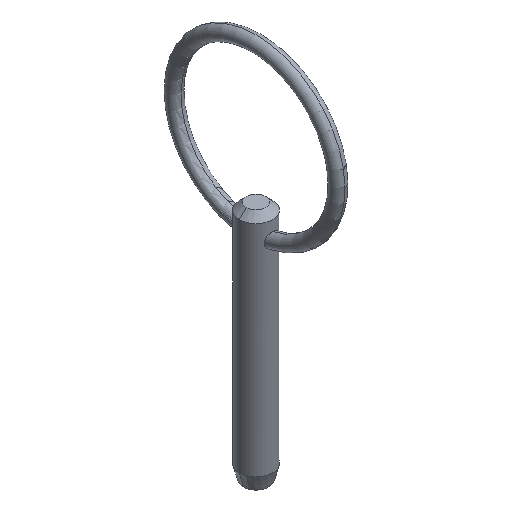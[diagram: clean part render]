
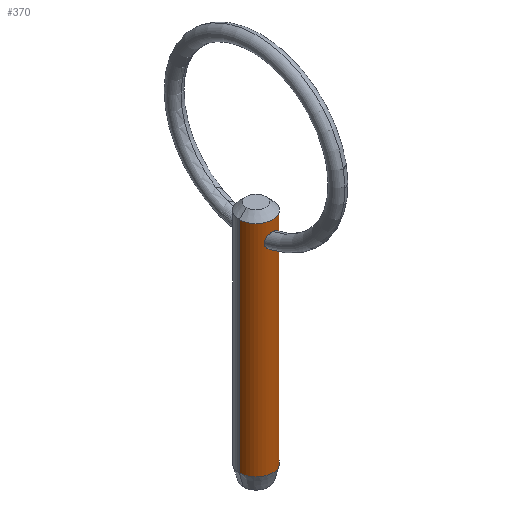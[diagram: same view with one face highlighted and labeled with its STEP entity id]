
A CAD part, isometric view. The second image highlights one B-rep face of the part: STEP entity #370.
In plain terms, the highlighted cylindrical face has radius 2.38 mm (diameter 4.76 mm), a partial arc.
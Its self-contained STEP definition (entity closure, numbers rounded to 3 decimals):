
#13 = CARTESIAN_POINT ( 'NONE',  ( 0., 0., -3.08 ) ) ;
#16 = DIRECTION ( 'NONE',  ( 0., 0., -1. ) ) ;
#19 = CARTESIAN_POINT ( 'NONE',  ( 2.38, 0., 24.5 ) ) ;
#21 = CARTESIAN_POINT ( 'NONE',  ( 0.615, -2.301, 26.544 ) ) ;
#24 = CARTESIAN_POINT ( 'NONE',  ( 0.966, -2.176, 25.997 ) ) ;
#27 = B_SPLINE_CURVE_WITH_KNOTS ( 'NONE', 3,
 ( #411, #207, #341, #275, #404, #239, #56, #128, #98, #442, #174, #199, #375, #236, #407, #90 ),
 .UNSPECIFIED., .F., .F.,
 ( 4, 2, 2, 2, 2, 2, 2, 4 ),
 ( 0.006, 0.006, 0.007, 0.007, 0.007, 0.008, 0.009, 0.009 ),
 .UNSPECIFIED. ) ;
#56 = CARTESIAN_POINT ( 'NONE',  ( -0.885, -2.21, 25.217 ) ) ;
#59 = CARTESIAN_POINT ( 'NONE',  ( -2.38, 0., -3.08 ) ) ;
#63 = DIRECTION ( 'NONE',  ( 1., 0., 0. ) ) ;
#68 = DIRECTION ( 'NONE',  ( -1., 0., 0. ) ) ;
#88 = LINE ( 'NONE', #374, #110 ) ;
#90 = CARTESIAN_POINT ( 'NONE',  ( 0., -2.38, 26.768 ) ) ;
#92 = CARTESIAN_POINT ( 'NONE',  ( 0., -2.38, 26.768 ) ) ;
#98 = CARTESIAN_POINT ( 'NONE',  ( -1.004, -2.158, 25.599 ) ) ;
#101 = CARTESIAN_POINT ( 'NONE',  ( 0.996, -2.162, 25.864 ) ) ;
#102 = B_SPLINE_CURVE_WITH_KNOTS ( 'NONE', 3,
 ( #92, #309, #315, #352, #21, #175, #384, #24, #101, #138, #177, #456, #417, #420, #212, #459, #246, #209 ),
 .UNSPECIFIED., .F., .F.,
 ( 4, 2, 2, 2, 2, 2, 2, 2, 4 ),
 ( 0.003, 0.003, 0.003, 0.004, 0.004, 0.005, 0.005, 0.005, 0.006 ),
 .UNSPECIFIED. ) ;
#106 = EDGE_CURVE ( 'NONE', #151, #235, #258, .T. ) ;
#108 = CARTESIAN_POINT ( 'NONE',  ( 2.38, 0., 28.24 ) ) ;
#110 = VECTOR ( 'NONE', #377, 1000. ) ;
#112 = ORIENTED_EDGE ( 'NONE', *, *, #106, .T. ) ;
#128 = CARTESIAN_POINT ( 'NONE',  ( -0.982, -2.169, 25.465 ) ) ;
#132 = EDGE_CURVE ( 'NONE', #308, #151, #88, .T. ) ;
#138 = CARTESIAN_POINT ( 'NONE',  ( 1.003, -2.158, 25.599 ) ) ;
#151 = VERTEX_POINT ( 'NONE', #59 ) ;
#160 = VERTEX_POINT ( 'NONE', #169 ) ;
#164 = AXIS2_PLACEMENT_3D ( 'NONE', #414, #348, #63 ) ;
#169 = CARTESIAN_POINT ( 'NONE',  ( 0., -2.38, 24.725 ) ) ;
#174 = CARTESIAN_POINT ( 'NONE',  ( -0.88, -2.219, 26.26 ) ) ;
#175 = CARTESIAN_POINT ( 'NONE',  ( 0.793, -2.246, 26.352 ) ) ;
#177 = CARTESIAN_POINT ( 'NONE',  ( 0.981, -2.169, 25.464 ) ) ;
#183 = CARTESIAN_POINT ( 'NONE',  ( 0., -2.38, 26.768 ) ) ;
#188 = EDGE_LOOP ( 'NONE', ( #433, #314 ) ) ;
#190 = EDGE_CURVE ( 'NONE', #399, #160, #102, .T. ) ;
#199 = CARTESIAN_POINT ( 'NONE',  ( -0.613, -2.302, 26.546 ) ) ;
#207 = CARTESIAN_POINT ( 'NONE',  ( -0.133, -2.38, 24.725 ) ) ;
#209 = CARTESIAN_POINT ( 'NONE',  ( 0., -2.38, 24.725 ) ) ;
#211 = EDGE_CURVE ( 'NONE', #160, #399, #27, .T. ) ;
#212 = CARTESIAN_POINT ( 'NONE',  ( 0.513, -2.327, 24.848 ) ) ;
#224 = EDGE_CURVE ( 'NONE', #335, #235, #338, .T. ) ;
#229 = ORIENTED_EDGE ( 'NONE', *, *, #132, .T. ) ;
#235 = VERTEX_POINT ( 'NONE', #310 ) ;
#236 = CARTESIAN_POINT ( 'NONE',  ( -0.267, -2.368, 26.737 ) ) ;
#239 = CARTESIAN_POINT ( 'NONE',  ( -0.811, -2.24, 25.106 ) ) ;
#241 = DIRECTION ( 'NONE',  ( -1., 0., 0. ) ) ;
#246 = CARTESIAN_POINT ( 'NONE',  ( 0.133, -2.38, 24.725 ) ) ;
#258 = CIRCLE ( 'NONE', #357, 2.38 ) ;
#273 = DIRECTION ( 'NONE',  ( 0., 0., 1. ) ) ;
#275 = CARTESIAN_POINT ( 'NONE',  ( -0.514, -2.327, 24.849 ) ) ;
#281 = AXIS2_PLACEMENT_3D ( 'NONE', #282, #353, #68 ) ;
#282 = CARTESIAN_POINT ( 'NONE',  ( 0., 0., 24.5 ) ) ;
#291 = CIRCLE ( 'NONE', #164, 2.38 ) ;
#308 = VERTEX_POINT ( 'NONE', #379 ) ;
#309 = CARTESIAN_POINT ( 'NONE',  ( 0.134, -2.38, 26.768 ) ) ;
#310 = CARTESIAN_POINT ( 'NONE',  ( 2.38, 0., -3.08 ) ) ;
#314 = ORIENTED_EDGE ( 'NONE', *, *, #211, .T. ) ;
#315 = CARTESIAN_POINT ( 'NONE',  ( 0.268, -2.368, 26.737 ) ) ;
#317 = ORIENTED_EDGE ( 'NONE', *, *, #325, .T. ) ;
#325 = EDGE_CURVE ( 'NONE', #335, #308, #291, .T. ) ;
#335 = VERTEX_POINT ( 'NONE', #108 ) ;
#338 = LINE ( 'NONE', #19, #362 ) ;
#341 = CARTESIAN_POINT ( 'NONE',  ( -0.268, -2.368, 24.751 ) ) ;
#348 = DIRECTION ( 'NONE',  ( 0., 0., -1. ) ) ;
#352 = CARTESIAN_POINT ( 'NONE',  ( 0.508, -2.328, 26.624 ) ) ;
#353 = DIRECTION ( 'NONE',  ( 0., 0., -1. ) ) ;
#357 = AXIS2_PLACEMENT_3D ( 'NONE', #13, #273, #241 ) ;
#362 = VECTOR ( 'NONE', #16, 1000. ) ;
#367 = CYLINDRICAL_SURFACE ( 'NONE', #281, 2.38 ) ;
#368 = EDGE_LOOP ( 'NONE', ( #418, #317, #229, #112 ) ) ;
#370 = ADVANCED_FACE ( 'NONE', ( #472, #394 ), #367, .T. ) ;
#374 = CARTESIAN_POINT ( 'NONE',  ( -2.38, 0., 24.5 ) ) ;
#375 = CARTESIAN_POINT ( 'NONE',  ( -0.505, -2.329, 26.626 ) ) ;
#377 = DIRECTION ( 'NONE',  ( 0., 0., -1. ) ) ;
#379 = CARTESIAN_POINT ( 'NONE',  ( -2.38, 0., 28.24 ) ) ;
#384 = CARTESIAN_POINT ( 'NONE',  ( 0.865, -2.218, 26.24 ) ) ;
#394 = FACE_BOUND ( 'NONE', #188, .T. ) ;
#399 = VERTEX_POINT ( 'NONE', #183 ) ;
#404 = CARTESIAN_POINT ( 'NONE',  ( -0.626, -2.298, 24.922 ) ) ;
#407 = CARTESIAN_POINT ( 'NONE',  ( -0.134, -2.38, 26.768 ) ) ;
#411 = CARTESIAN_POINT ( 'NONE',  ( 0., -2.38, 24.725 ) ) ;
#414 = CARTESIAN_POINT ( 'NONE',  ( 0., 0., 28.24 ) ) ;
#417 = CARTESIAN_POINT ( 'NONE',  ( 0.811, -2.24, 25.106 ) ) ;
#418 = ORIENTED_EDGE ( 'NONE', *, *, #224, .F. ) ;
#420 = CARTESIAN_POINT ( 'NONE',  ( 0.625, -2.299, 24.921 ) ) ;
#433 = ORIENTED_EDGE ( 'NONE', *, *, #190, .T. ) ;
#442 = CARTESIAN_POINT ( 'NONE',  ( -0.991, -2.164, 26.001 ) ) ;
#456 = CARTESIAN_POINT ( 'NONE',  ( 0.885, -2.21, 25.217 ) ) ;
#459 = CARTESIAN_POINT ( 'NONE',  ( 0.268, -2.368, 24.751 ) ) ;
#472 = FACE_OUTER_BOUND ( 'NONE', #368, .T. ) ;
